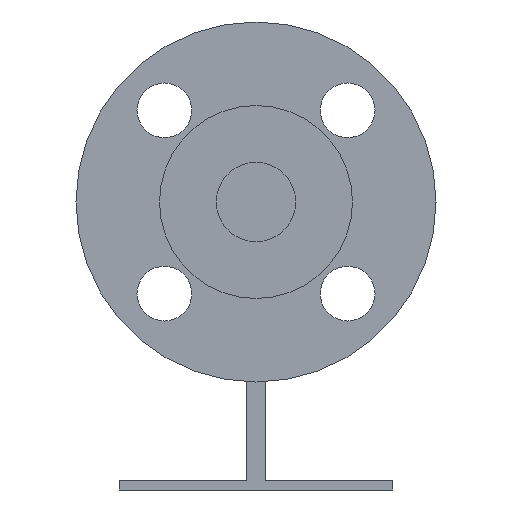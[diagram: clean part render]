
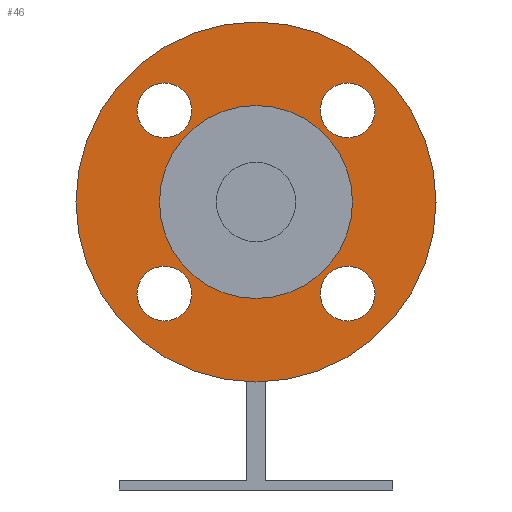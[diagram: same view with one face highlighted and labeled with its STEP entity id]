
A CAD part, left-side view. The second image highlights one B-rep face of the part: STEP entity #46.
In plain terms, the highlighted planar face has unit normal (-1, 0, 0).
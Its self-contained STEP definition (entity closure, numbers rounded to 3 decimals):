
#46=ADVANCED_FACE('',(#185,#186,#187,#188,#189,#190),#184,.T.);
#184=PLANE('',#962);
#185=FACE_OUTER_BOUND('',#963,.T.);
#186=FACE_BOUND('',#964,.T.);
#187=FACE_BOUND('',#965,.T.);
#188=FACE_BOUND('',#966,.T.);
#189=FACE_BOUND('',#967,.T.);
#190=FACE_BOUND('',#968,.T.);
#959=CARTESIAN_POINT('',(-337.4,-118.253,-135.));
#960=DIRECTION('',(-1.,0.,0.));
#961=DIRECTION('',(0.,0.,1.));
#962=AXIS2_PLACEMENT_3D('',#959,#960,#961);
#963=EDGE_LOOP('',(#1375,#1376));
#964=EDGE_LOOP('',(#1377,#1378));
#965=EDGE_LOOP('',(#1379,#1380));
#966=EDGE_LOOP('',(#1381,#1382));
#967=EDGE_LOOP('',(#1383,#1384));
#968=EDGE_LOOP('',(#1385,#1386));
#1375=ORIENTED_EDGE('',*,*,#1777,.T.);
#1376=ORIENTED_EDGE('',*,*,#1778,.T.);
#1377=ORIENTED_EDGE('',*,*,#1779,.F.);
#1378=ORIENTED_EDGE('',*,*,#1780,.F.);
#1379=ORIENTED_EDGE('',*,*,#1781,.F.);
#1380=ORIENTED_EDGE('',*,*,#1782,.F.);
#1381=ORIENTED_EDGE('',*,*,#1783,.F.);
#1382=ORIENTED_EDGE('',*,*,#1784,.F.);
#1383=ORIENTED_EDGE('',*,*,#1785,.F.);
#1384=ORIENTED_EDGE('',*,*,#1786,.F.);
#1385=ORIENTED_EDGE('',*,*,#1787,.F.);
#1386=ORIENTED_EDGE('',*,*,#1788,.F.);
#1777=EDGE_CURVE('',#2163,#2164,#2165,.T.);
#1778=EDGE_CURVE('',#2164,#2163,#2171,.T.);
#1779=EDGE_CURVE('',#2177,#2178,#2179,.T.);
#1780=EDGE_CURVE('',#2178,#2177,#2185,.T.);
#1781=EDGE_CURVE('',#2191,#2192,#2193,.T.);
#1782=EDGE_CURVE('',#2192,#2191,#2199,.T.);
#1783=EDGE_CURVE('',#2205,#2206,#2207,.T.);
#1784=EDGE_CURVE('',#2206,#2205,#2213,.T.);
#1785=EDGE_CURVE('',#2219,#2220,#2221,.T.);
#1786=EDGE_CURVE('',#2220,#2219,#2227,.T.);
#1787=EDGE_CURVE('',#2233,#2234,#2235,.T.);
#1788=EDGE_CURVE('',#2234,#2233,#2241,.T.);
#2163=VERTEX_POINT('',#3442);
#2164=VERTEX_POINT('',#3443);
#2165=CIRCLE('',#3447,62.5);
#2171=CIRCLE('',#3451,62.5);
#2177=VERTEX_POINT('',#3452);
#2178=VERTEX_POINT('',#3453);
#2179=CIRCLE('',#3457,9.5);
#2185=CIRCLE('',#3461,9.5);
#2191=VERTEX_POINT('',#3462);
#2192=VERTEX_POINT('',#3463);
#2193=CIRCLE('',#3467,9.5);
#2199=CIRCLE('',#3471,9.5);
#2205=VERTEX_POINT('',#3472);
#2206=VERTEX_POINT('',#3473);
#2207=CIRCLE('',#3477,9.5);
#2213=CIRCLE('',#3481,9.5);
#2219=VERTEX_POINT('',#3482);
#2220=VERTEX_POINT('',#3483);
#2221=CIRCLE('',#3487,9.5);
#2227=CIRCLE('',#3491,9.5);
#2233=VERTEX_POINT('',#3492);
#2234=VERTEX_POINT('',#3493);
#2235=CIRCLE('',#3497,33.5);
#2241=CIRCLE('',#3501,33.5);
#3442=CARTESIAN_POINT('',(-337.4,0.,62.5));
#3443=CARTESIAN_POINT('',(-337.4,0.,-62.5));
#3444=CARTESIAN_POINT('',(-337.4,0.,0.));
#3445=DIRECTION('',(-1.,0.,0.));
#3446=DIRECTION('',(0.,0.,1.));
#3447=AXIS2_PLACEMENT_3D('',#3444,#3445,#3446);
#3448=CARTESIAN_POINT('',(-337.4,0.,0.));
#3449=DIRECTION('',(-1.,0.,0.));
#3450=DIRECTION('',(0.,0.,1.));
#3451=AXIS2_PLACEMENT_3D('',#3448,#3449,#3450);
#3452=CARTESIAN_POINT('',(-337.4,-31.82,-41.32));
#3453=CARTESIAN_POINT('',(-337.4,-31.82,-22.32));
#3454=CARTESIAN_POINT('',(-337.4,-31.82,-31.82));
#3455=DIRECTION('',(-1.,0.,0.));
#3456=DIRECTION('',(0.,0.,1.));
#3457=AXIS2_PLACEMENT_3D('',#3454,#3455,#3456);
#3458=CARTESIAN_POINT('',(-337.4,-31.82,-31.82));
#3459=DIRECTION('',(-1.,0.,0.));
#3460=DIRECTION('',(0.,0.,1.));
#3461=AXIS2_PLACEMENT_3D('',#3458,#3459,#3460);
#3462=CARTESIAN_POINT('',(-337.4,31.82,-41.32));
#3463=CARTESIAN_POINT('',(-337.4,31.82,-22.32));
#3464=CARTESIAN_POINT('',(-337.4,31.82,-31.82));
#3465=DIRECTION('',(-1.,0.,0.));
#3466=DIRECTION('',(0.,0.,1.));
#3467=AXIS2_PLACEMENT_3D('',#3464,#3465,#3466);
#3468=CARTESIAN_POINT('',(-337.4,31.82,-31.82));
#3469=DIRECTION('',(-1.,0.,0.));
#3470=DIRECTION('',(0.,0.,1.));
#3471=AXIS2_PLACEMENT_3D('',#3468,#3469,#3470);
#3472=CARTESIAN_POINT('',(-337.4,31.82,22.32));
#3473=CARTESIAN_POINT('',(-337.4,31.82,41.32));
#3474=CARTESIAN_POINT('',(-337.4,31.82,31.82));
#3475=DIRECTION('',(-1.,0.,0.));
#3476=DIRECTION('',(0.,0.,1.));
#3477=AXIS2_PLACEMENT_3D('',#3474,#3475,#3476);
#3478=CARTESIAN_POINT('',(-337.4,31.82,31.82));
#3479=DIRECTION('',(-1.,0.,0.));
#3480=DIRECTION('',(0.,0.,1.));
#3481=AXIS2_PLACEMENT_3D('',#3478,#3479,#3480);
#3482=CARTESIAN_POINT('',(-337.4,-31.82,22.32));
#3483=CARTESIAN_POINT('',(-337.4,-31.82,41.32));
#3484=CARTESIAN_POINT('',(-337.4,-31.82,31.82));
#3485=DIRECTION('',(-1.,0.,0.));
#3486=DIRECTION('',(0.,0.,1.));
#3487=AXIS2_PLACEMENT_3D('',#3484,#3485,#3486);
#3488=CARTESIAN_POINT('',(-337.4,-31.82,31.82));
#3489=DIRECTION('',(-1.,0.,0.));
#3490=DIRECTION('',(0.,0.,1.));
#3491=AXIS2_PLACEMENT_3D('',#3488,#3489,#3490);
#3492=CARTESIAN_POINT('',(-337.4,0.,-33.5));
#3493=CARTESIAN_POINT('',(-337.4,0.,33.5));
#3494=CARTESIAN_POINT('',(-337.4,0.,0.));
#3495=DIRECTION('',(-1.,0.,0.));
#3496=DIRECTION('',(0.,0.,1.));
#3497=AXIS2_PLACEMENT_3D('',#3494,#3495,#3496);
#3498=CARTESIAN_POINT('',(-337.4,0.,0.));
#3499=DIRECTION('',(-1.,0.,0.));
#3500=DIRECTION('',(0.,0.,1.));
#3501=AXIS2_PLACEMENT_3D('',#3498,#3499,#3500);
